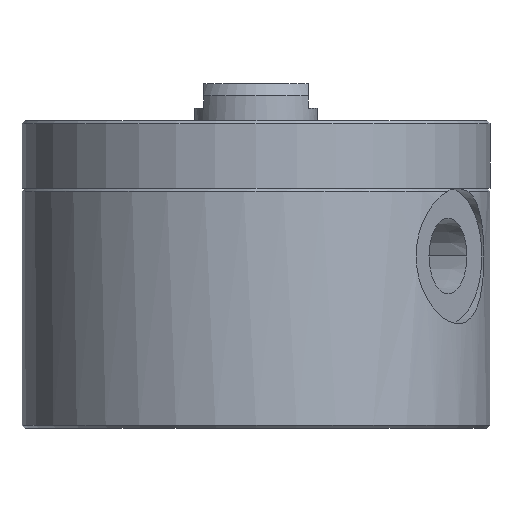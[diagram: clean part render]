
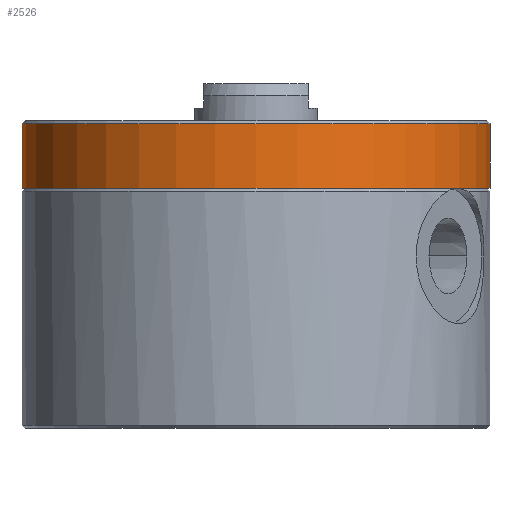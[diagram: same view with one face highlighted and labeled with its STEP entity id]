
A CAD part, front view. The second image highlights one B-rep face of the part: STEP entity #2526.
In plain terms, the highlighted cylindrical face has radius 38 mm (diameter 76 mm), a partial arc.
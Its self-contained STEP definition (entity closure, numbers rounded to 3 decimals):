
#166 = CYLINDRICAL_SURFACE ( 'NONE', #1392, 38. ) ;
#183 = FACE_OUTER_BOUND ( 'NONE', #3269, .T. ) ;
#229 = CARTESIAN_POINT ( 'NONE',  ( -38., 0., 39. ) ) ;
#232 = CIRCLE ( 'NONE', #1082, 38. ) ;
#237 = CIRCLE ( 'NONE', #1078, 38. ) ;
#585 = ORIENTED_EDGE ( 'NONE', *, *, #1461, .T. ) ;
#629 = LINE ( 'NONE', #2337, #981 ) ;
#720 = CARTESIAN_POINT ( 'NONE',  ( 38., 0., 39. ) ) ;
#981 = VECTOR ( 'NONE', #2478, 1000. ) ;
#1018 = LINE ( 'NONE', #2048, #1030 ) ;
#1030 = VECTOR ( 'NONE', #2085, 1000. ) ;
#1077 = DIRECTION ( 'NONE',  ( -1., 0., 0. ) ) ;
#1078 = AXIS2_PLACEMENT_3D ( 'NONE', #1245, #2673, #1308 ) ;
#1082 = AXIS2_PLACEMENT_3D ( 'NONE', #1154, #1130, #1118 ) ;
#1118 = DIRECTION ( 'NONE',  ( 1., 0., 0. ) ) ;
#1130 = DIRECTION ( 'NONE',  ( 0., 0., 1. ) ) ;
#1154 = CARTESIAN_POINT ( 'NONE',  ( 0., 0., 39. ) ) ;
#1158 = CARTESIAN_POINT ( 'NONE',  ( 0., 0., 50. ) ) ;
#1217 = DIRECTION ( 'NONE',  ( 0., 0., -1. ) ) ;
#1245 = CARTESIAN_POINT ( 'NONE',  ( 0., 0., 49.5 ) ) ;
#1308 = DIRECTION ( 'NONE',  ( 1., 0., 0. ) ) ;
#1392 = AXIS2_PLACEMENT_3D ( 'NONE', #1158, #1217, #1077 ) ;
#1399 = EDGE_CURVE ( 'NONE', #1724, #2457, #1018, .T. ) ;
#1461 = EDGE_CURVE ( 'NONE', #1741, #3181, #629, .T. ) ;
#1575 = CARTESIAN_POINT ( 'NONE',  ( -38., 0., 49.5 ) ) ;
#1724 = VERTEX_POINT ( 'NONE', #1822 ) ;
#1741 = VERTEX_POINT ( 'NONE', #1575 ) ;
#1822 = CARTESIAN_POINT ( 'NONE',  ( 38., 0., 49.5 ) ) ;
#1943 = ORIENTED_EDGE ( 'NONE', *, *, #3107, .T. ) ;
#2048 = CARTESIAN_POINT ( 'NONE',  ( 38., 0., 50. ) ) ;
#2085 = DIRECTION ( 'NONE',  ( 0., 0., -1. ) ) ;
#2137 = ORIENTED_EDGE ( 'NONE', *, *, #1399, .F. ) ;
#2337 = CARTESIAN_POINT ( 'NONE',  ( -38., 0., 50. ) ) ;
#2457 = VERTEX_POINT ( 'NONE', #720 ) ;
#2478 = DIRECTION ( 'NONE',  ( 0., 0., -1. ) ) ;
#2526 = ADVANCED_FACE ( 'NONE', ( #183 ), #166, .T. ) ;
#2673 = DIRECTION ( 'NONE',  ( 0., 0., -1. ) ) ;
#2972 = ORIENTED_EDGE ( 'NONE', *, *, #3100, .T. ) ;
#3100 = EDGE_CURVE ( 'NONE', #1724, #1741, #237, .T. ) ;
#3107 = EDGE_CURVE ( 'NONE', #3181, #2457, #232, .T. ) ;
#3181 = VERTEX_POINT ( 'NONE', #229 ) ;
#3269 = EDGE_LOOP ( 'NONE', ( #2137, #2972, #585, #1943 ) ) ;
